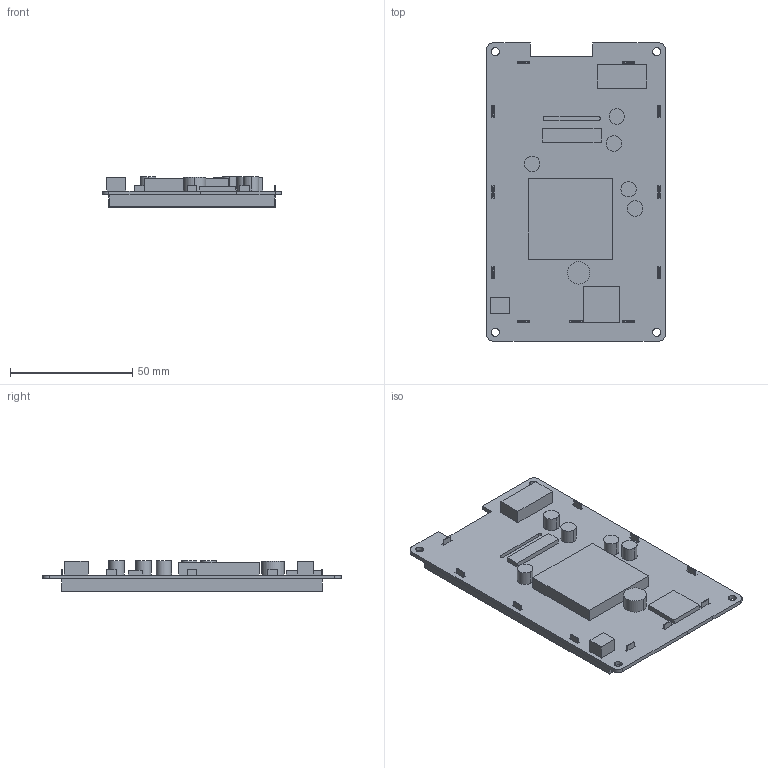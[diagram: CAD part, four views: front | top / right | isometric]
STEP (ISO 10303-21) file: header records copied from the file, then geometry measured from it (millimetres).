
FILE_DESCRIPTION((''),'2;1');
FILE_NAME('DMG80480K043_03WN','2022-02-17T',('Administrator'),(''),'PRO/ENGINEER BY PARAMETRIC TECHNOLOGY CORPORATION, 2011310','PRO/ENGINEER BY PARAMETRIC TECHNOLOGY CORPORATION, 2011310','');
FILE_SCHEMA(('CONFIG_CONTROL_DESIGN','SHAPE_APPEARANCE_LAYERS_GROUPS'));
Length unit declared in the file: millimetre
Products named in the file (1): DMG80480K043_03WN
Bounding box: 73.15 x 121.92 x 12.4 mm (x, y, z)
Volume: 45190 mm3; surface area: 39657.8 mm2
Topology: 1 solids, 1 shells, 196 faces, 586 edges, 376 vertices
Faces by surface type: plane 170, cylinder 26
Entity records: 7915 total; most frequent: ORIENTED_EDGE 1172, CARTESIAN_POINT 1158, DIRECTION 1030, EDGE_CURVE 586, VECTOR 534, LINE 534, VERTEX_POINT 376, AXIS2_PLACEMENT_3D 248
